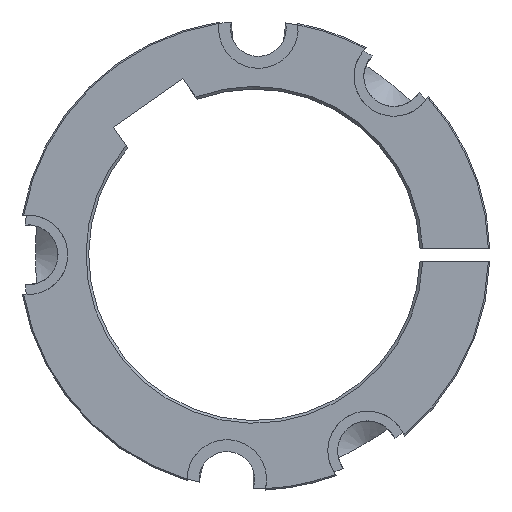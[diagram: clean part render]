
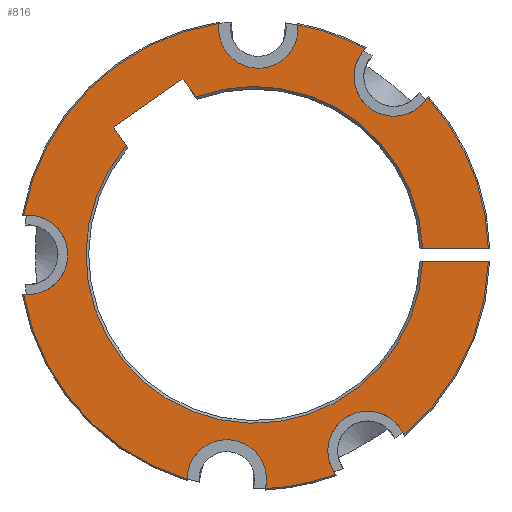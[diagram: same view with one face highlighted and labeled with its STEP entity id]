
A CAD part, left-side view. The second image highlights one B-rep face of the part: STEP entity #816.
In plain terms, the highlighted planar face has unit normal (-1, 0, 0).
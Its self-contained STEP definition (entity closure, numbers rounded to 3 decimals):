
#31=LINE('',#1588,#57);
#33=LINE('',#1605,#59);
#39=LINE('',#1619,#65);
#43=LINE('',#1627,#69);
#46=LINE('',#1635,#72);
#57=VECTOR('',#1104,8.439);
#59=VECTOR('',#1108,8.439);
#65=VECTOR('',#1116,24.774);
#69=VECTOR('',#1122,24.774);
#72=VECTOR('',#1131,31.98);
#103=PLANE('',#920);
#142=FACE_OUTER_BOUND('',#187,.T.);
#187=EDGE_LOOP('',(#720,#721,#722,#723,#724,#725,#726,#727,#728,#729,#730,
#731,#732,#733,#734,#735,#736,#737,#738,#739));
#199=CIRCLE('',#833,15.);
#205=CIRCLE('',#842,15.);
#206=CIRCLE('',#844,88.26);
#215=CIRCLE('',#855,88.26);
#229=CIRCLE('',#876,15.);
#235=CIRCLE('',#886,15.);
#239=CIRCLE('',#894,15.);
#242=CIRCLE('',#900,88.26);
#243=CIRCLE('',#902,88.26);
#244=CIRCLE('',#904,88.26);
#245=CIRCLE('',#910,0.01);
#246=CIRCLE('',#913,0.01);
#251=CIRCLE('',#921,88.26);
#252=CIRCLE('',#922,63.5);
#253=CIRCLE('',#923,63.5);
#300=VERTEX_POINT('',#1218);
#301=VERTEX_POINT('',#1223);
#312=VERTEX_POINT('',#1283);
#313=VERTEX_POINT('',#1288);
#315=VERTEX_POINT('',#1300);
#327=VERTEX_POINT('',#1332);
#348=VERTEX_POINT('',#1478);
#355=VERTEX_POINT('',#1523);
#357=VERTEX_POINT('',#1559);
#358=VERTEX_POINT('',#1564);
#359=VERTEX_POINT('',#1575);
#360=VERTEX_POINT('',#1579);
#361=VERTEX_POINT('',#1585);
#362=VERTEX_POINT('',#1587);
#365=VERTEX_POINT('',#1599);
#367=VERTEX_POINT('',#1604);
#371=VERTEX_POINT('',#1617);
#373=VERTEX_POINT('',#1622);
#375=VERTEX_POINT('',#1629);
#376=VERTEX_POINT('',#1633);
#388=EDGE_CURVE('',#301,#300,#199,.T.);
#402=EDGE_CURVE('',#313,#312,#205,.T.);
#405=EDGE_CURVE('',#301,#315,#206,.T.);
#420=EDGE_CURVE('',#313,#327,#215,.T.);
#449=EDGE_CURVE('',#348,#315,#229,.T.);
#458=EDGE_CURVE('',#355,#327,#235,.T.);
#467=EDGE_CURVE('',#358,#357,#239,.T.);
#471=EDGE_CURVE('',#348,#359,#242,.T.);
#474=EDGE_CURVE('',#360,#357,#243,.T.);
#475=EDGE_CURVE('',#358,#312,#244,.T.);
#477=EDGE_CURVE('',#362,#361,#31,.T.);
#482=EDGE_CURVE('',#367,#365,#33,.T.);
#489=EDGE_CURVE('',#360,#371,#39,.T.);
#493=EDGE_CURVE('',#373,#359,#43,.T.);
#495=EDGE_CURVE('',#361,#375,#245,.T.);
#497=EDGE_CURVE('',#375,#376,#46,.T.);
#498=EDGE_CURVE('',#376,#367,#246,.T.);
#503=EDGE_CURVE('',#355,#300,#251,.T.);
#504=EDGE_CURVE('',#371,#362,#252,.T.);
#505=EDGE_CURVE('',#365,#373,#253,.T.);
#720=ORIENTED_EDGE('',*,*,#388,.T.);
#721=ORIENTED_EDGE('',*,*,#503,.F.);
#722=ORIENTED_EDGE('',*,*,#458,.T.);
#723=ORIENTED_EDGE('',*,*,#420,.F.);
#724=ORIENTED_EDGE('',*,*,#402,.T.);
#725=ORIENTED_EDGE('',*,*,#475,.F.);
#726=ORIENTED_EDGE('',*,*,#467,.T.);
#727=ORIENTED_EDGE('',*,*,#474,.F.);
#728=ORIENTED_EDGE('',*,*,#489,.T.);
#729=ORIENTED_EDGE('',*,*,#504,.T.);
#730=ORIENTED_EDGE('',*,*,#477,.T.);
#731=ORIENTED_EDGE('',*,*,#495,.T.);
#732=ORIENTED_EDGE('',*,*,#497,.T.);
#733=ORIENTED_EDGE('',*,*,#498,.T.);
#734=ORIENTED_EDGE('',*,*,#482,.T.);
#735=ORIENTED_EDGE('',*,*,#505,.T.);
#736=ORIENTED_EDGE('',*,*,#493,.T.);
#737=ORIENTED_EDGE('',*,*,#471,.F.);
#738=ORIENTED_EDGE('',*,*,#449,.T.);
#739=ORIENTED_EDGE('',*,*,#405,.F.);
#816=ADVANCED_FACE('',(#142),#103,.T.);
#833=AXIS2_PLACEMENT_3D('',#1224,#948,#949);
#842=AXIS2_PLACEMENT_3D('',#1289,#966,#967);
#844=AXIS2_PLACEMENT_3D('',#1301,#970,#971);
#855=AXIS2_PLACEMENT_3D('',#1333,#997,#998);
#876=AXIS2_PLACEMENT_3D('',#1479,#1041,#1042);
#886=AXIS2_PLACEMENT_3D('',#1524,#1061,#1062);
#894=AXIS2_PLACEMENT_3D('',#1565,#1077,#1078);
#900=AXIS2_PLACEMENT_3D('',#1576,#1089,#1090);
#902=AXIS2_PLACEMENT_3D('',#1581,#1095,#1096);
#904=AXIS2_PLACEMENT_3D('',#1583,#1099,#1100);
#910=AXIS2_PLACEMENT_3D('',#1631,#1126,#1127);
#913=AXIS2_PLACEMENT_3D('',#1637,#1134,#1135);
#920=AXIS2_PLACEMENT_3D('',#1644,#1148,#1149);
#921=AXIS2_PLACEMENT_3D('',#1645,#1150,#1151);
#922=AXIS2_PLACEMENT_3D('',#1646,#1152,#1153);
#923=AXIS2_PLACEMENT_3D('',#1647,#1154,#1155);
#948=DIRECTION('center_axis',(1.,0.,0.));
#949=DIRECTION('ref_axis',(0.,0.,1.));
#966=DIRECTION('center_axis',(1.,0.,0.));
#967=DIRECTION('ref_axis',(0.,0.,1.));
#970=DIRECTION('center_axis',(1.,0.,0.));
#971=DIRECTION('ref_axis',(0.,0.,-1.));
#997=DIRECTION('center_axis',(1.,0.,0.));
#998=DIRECTION('ref_axis',(0.,0.,-1.));
#1041=DIRECTION('center_axis',(1.,0.,0.));
#1042=DIRECTION('ref_axis',(0.,0.,1.));
#1061=DIRECTION('center_axis',(1.,0.,0.));
#1062=DIRECTION('ref_axis',(0.,0.,1.));
#1077=DIRECTION('center_axis',(1.,0.,0.));
#1078=DIRECTION('ref_axis',(0.,0.,1.));
#1089=DIRECTION('center_axis',(1.,0.,0.));
#1090=DIRECTION('ref_axis',(0.,0.,-1.));
#1095=DIRECTION('center_axis',(1.,0.,0.));
#1096=DIRECTION('ref_axis',(0.,0.,-1.));
#1099=DIRECTION('center_axis',(1.,0.,0.));
#1100=DIRECTION('ref_axis',(0.,0.,-1.));
#1104=DIRECTION('',(0.,0.574,0.819));
#1108=DIRECTION('',(0.,-0.574,-0.819));
#1116=DIRECTION('',(0.,1.,0.));
#1122=DIRECTION('',(0.,-1.,0.));
#1126=DIRECTION('center_axis',(1.,0.,0.));
#1127=DIRECTION('ref_axis',(0.,-0.574,-0.819));
#1131=DIRECTION('',(0.,-0.819,0.574));
#1134=DIRECTION('center_axis',(1.,0.,0.));
#1135=DIRECTION('ref_axis',(0.,0.819,-0.574));
#1148=DIRECTION('center_axis',(-1.,0.,0.));
#1149=DIRECTION('ref_axis',(0.,0.,1.));
#1150=DIRECTION('center_axis',(1.,0.,0.));
#1151=DIRECTION('ref_axis',(0.,0.,-1.));
#1152=DIRECTION('center_axis',(1.,0.,0.));
#1153=DIRECTION('ref_axis',(0.,0.,-1.));
#1154=DIRECTION('center_axis',(1.,0.,0.));
#1155=DIRECTION('ref_axis',(0.,0.,-1.));
#1218=CARTESIAN_POINT('',(-1.97,86.903,87.239));
#1223=CARTESIAN_POINT('',(-1.97,57.088,86.718));
#1224=CARTESIAN_POINT('Origin',(-1.97,72.024,85.337));
#1283=CARTESIAN_POINT('',(-1.97,69.316,-88.16));
#1288=CARTESIAN_POINT('',(-1.97,98.914,-84.526));
#1289=CARTESIAN_POINT('Origin',(-1.97,83.915,-84.714));
#1300=CARTESIAN_POINT('',(-1.97,31.705,77.73));
#1301=CARTESIAN_POINT('Origin',(-1.97,73.514,0.));
#1332=CARTESIAN_POINT('',(-1.97,160.505,-14.91));
#1333=CARTESIAN_POINT('Origin',(-1.97,73.514,0.));
#1478=CARTESIAN_POINT('',(-1.97,8.207,59.371));
#1479=CARTESIAN_POINT('Origin',(-1.97,20.967,67.257));
#1523=CARTESIAN_POINT('',(-1.97,160.505,14.91));
#1524=CARTESIAN_POINT('Origin',(-1.97,158.864,0.));
#1559=CARTESIAN_POINT('',(-1.97,17.105,-67.882));
#1564=CARTESIAN_POINT('',(-1.97,42.93,-82.792));
#1565=CARTESIAN_POINT('Origin',(-1.97,30.839,-73.915));
#1575=CARTESIAN_POINT('',(-1.97,-14.711,2.5));
#1576=CARTESIAN_POINT('Origin',(-1.97,73.514,0.));
#1579=CARTESIAN_POINT('',(-1.97,-14.711,-2.5));
#1581=CARTESIAN_POINT('Origin',(-1.97,73.514,0.));
#1583=CARTESIAN_POINT('Origin',(-1.97,73.514,0.));
#1585=CARTESIAN_POINT('',(-1.97,126.707,48.073));
#1587=CARTESIAN_POINT('',(-1.97,121.867,41.161));
#1588=CARTESIAN_POINT('',(-1.97,118.762,36.726));
#1599=CARTESIAN_POINT('',(-1.97,95.654,59.515));
#1604=CARTESIAN_POINT('',(-1.97,100.494,66.428));
#1605=CARTESIAN_POINT('',(-1.97,92.252,54.657));
#1617=CARTESIAN_POINT('',(-1.97,10.063,-2.5));
#1619=CARTESIAN_POINT('',(-1.97,86.419,-2.5));
#1622=CARTESIAN_POINT('',(-1.97,10.063,2.5));
#1627=CARTESIAN_POINT('',(-1.97,85.918,2.5));
#1629=CARTESIAN_POINT('',(-1.97,126.705,48.087));
#1631=CARTESIAN_POINT('Origin',(-1.97,126.699,48.079));
#1633=CARTESIAN_POINT('',(-1.97,100.508,66.43));
#1635=CARTESIAN_POINT('',(-1.97,136.669,41.11));
#1637=CARTESIAN_POINT('Origin',(-1.97,100.503,66.422));
#1644=CARTESIAN_POINT('Origin',(-1.97,161.774,0.));
#1645=CARTESIAN_POINT('Origin',(-1.97,73.514,0.));
#1646=CARTESIAN_POINT('Origin',(-1.97,73.514,0.));
#1647=CARTESIAN_POINT('Origin',(-1.97,73.514,0.));
